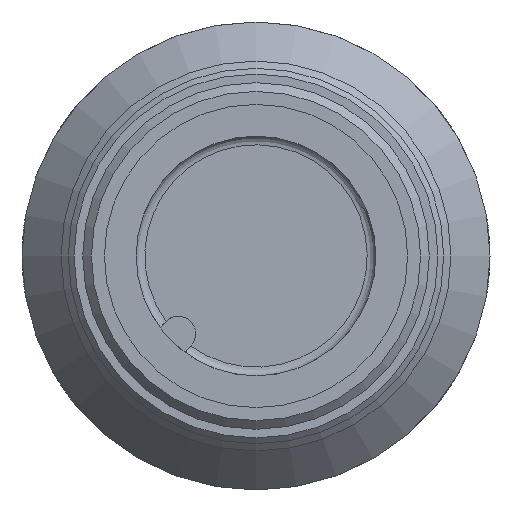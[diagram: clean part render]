
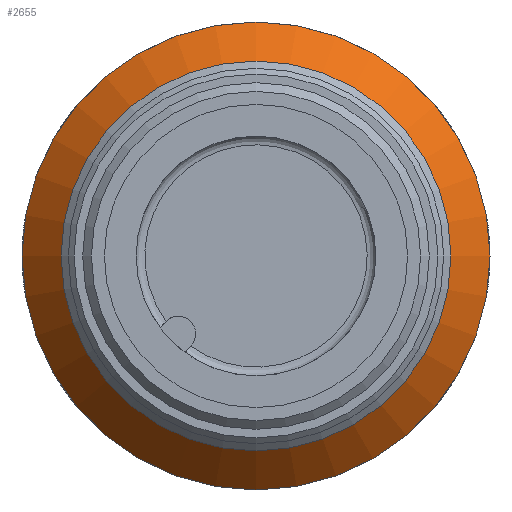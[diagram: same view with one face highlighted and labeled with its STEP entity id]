
A CAD part, front view. The second image highlights one B-rep face of the part: STEP entity #2655.
In plain terms, the highlighted conical face has half-angle 41.668 degrees and reference radius 7.425 mm.
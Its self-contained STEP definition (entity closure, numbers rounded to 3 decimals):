
#2624=CARTESIAN_POINT('',(-20.68,36.052,-8.103));
#2625=VERTEX_POINT('',#2624);
#2626=CARTESIAN_POINT('',(-20.68,36.052,0.));
#2627=DIRECTION('',(0.0,-1.0,0.0));
#2628=DIRECTION('',(0.0,0.0,-1.0));
#2629=AXIS2_PLACEMENT_3D('',#2626,#2627,#2628);
#2630=CIRCLE('',#2629,8.103);
#2631=EDGE_CURVE('',#2625,#2625,#2630,.T.);
#2636=CARTESIAN_POINT('',(-20.68,35.289,0.));
#2637=DIRECTION('',(0.,1.0,0.));
#2638=DIRECTION('',(0.0,0.0,-1.0));
#2639=AXIS2_PLACEMENT_3D('',#2636,#2637,#2638);
#2640=CONICAL_SURFACE('',#2639,7.425,41.668);
#2641=CARTESIAN_POINT('',(-20.68,34.527,-6.746));
#2642=VERTEX_POINT('',#2641);
#2643=CARTESIAN_POINT('',(-20.68,34.527,0.));
#2644=DIRECTION('',(0.0,-1.0,0.0));
#2645=DIRECTION('',(0.0,0.0,-1.0));
#2646=AXIS2_PLACEMENT_3D('',#2643,#2644,#2645);
#2647=CIRCLE('',#2646,6.746);
#2648=EDGE_CURVE('',#2642,#2642,#2647,.T.);
#2649=ORIENTED_EDGE('',*,*,#2648,.F.);
#2650=EDGE_LOOP('',(#2649));
#2651=FACE_OUTER_BOUND('',#2650,.T.);
#2652=ORIENTED_EDGE('',*,*,#2631,.T.);
#2653=EDGE_LOOP('',(#2652));
#2654=FACE_BOUND('',#2653,.T.);
#2655=ADVANCED_FACE('',(#2651,#2654),#2640,.T.);
